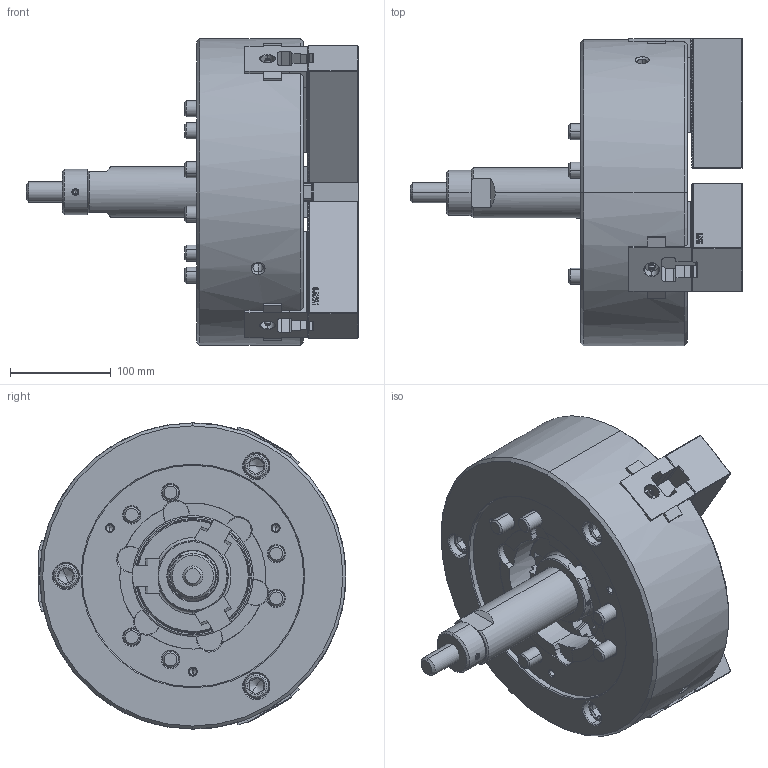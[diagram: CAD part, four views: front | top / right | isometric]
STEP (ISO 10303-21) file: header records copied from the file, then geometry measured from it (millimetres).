
FILE_DESCRIPTION (( 'STEP AP214' ), '1' );
FILE_NAME ('DT1_N-12_OUTSIDE_VIEW_HUL.STEP', '2026-03-12T00:48:28', ( '' ), ( '' ), 'SwSTEP 2.0', 'SolidWorks 2022', '' );
FILE_SCHEMA (( 'AUTOMOTIVE_DESIGN' ));
Length unit declared in the file: millimetre
Products named in the file (11): DT1_N-12_TNUT^DT1_N-12; DT1_N-12_DRAWSCREW^DT1_N-12; DT1_N-12_DN^DT1_N-12; DT1_N-12_COVER^DT1_N-12; DT1_N-12_M5x12^DT1_N-12; DT1_N-12_BASE^DT1_N-12; Copy of 61P312753^DT1_N-12; DT1_N-12_M16x100^DT1_N-12; DT1_N-12_SOFTJAW^DT1_N-12; DT1_N-12_M14x45^DT1_N-12; DT1_N-12_OUTSIDE_VIEW_HUL
Assembly tree (26 placements, depth 2):
  DT1_N-12_OUTSIDE_VIEW_HUL
    DT1_N-12_SOFTJAW^DT1_N-12  x3
    DT1_N-12_TNUT^DT1_N-12  x3
    DT1_N-12_COVER^DT1_N-12
    DT1_N-12_DRAWSCREW^DT1_N-12
    Copy of 61P312753^DT1_N-12
    DT1_N-12_DN^DT1_N-12
    DT1_N-12_BASE^DT1_N-12
    DT1_N-12_M5x12^DT1_N-12  x3
    DT1_N-12_M14x45^DT1_N-12  x6
    DT1_N-12_M16x100^DT1_N-12  x6
Bounding box: 329.55 x 305.63 x 304 mm (x, y, z)
Volume: 8119137.8 mm3; surface area: 690857.5 mm2
Topology: 26 solids, 47 shells, 5197 faces, 14634 edges, 9594 vertices
Faces by surface type: plane 3773, cylinder 700, cone 434, bspline 225, torus 59, sphere 6
Entity records: 121737 total; most frequent: CARTESIAN_POINT 32411, ORIENTED_EDGE 19980, DIRECTION 16289, EDGE_CURVE 9990, LINE 7491, VECTOR 7491, VERTEX_POINT 6570, AXIS2_PLACEMENT_3D 4399
